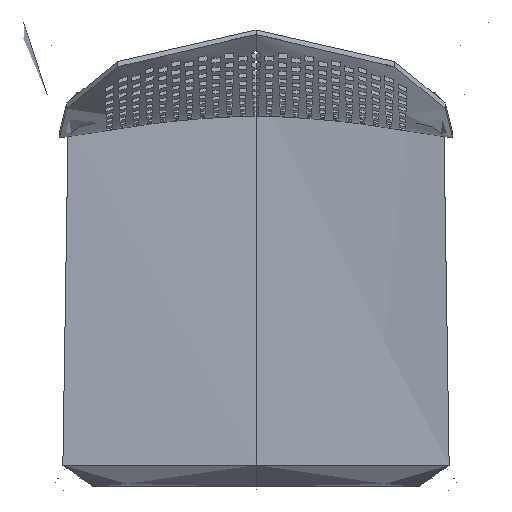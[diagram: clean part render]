
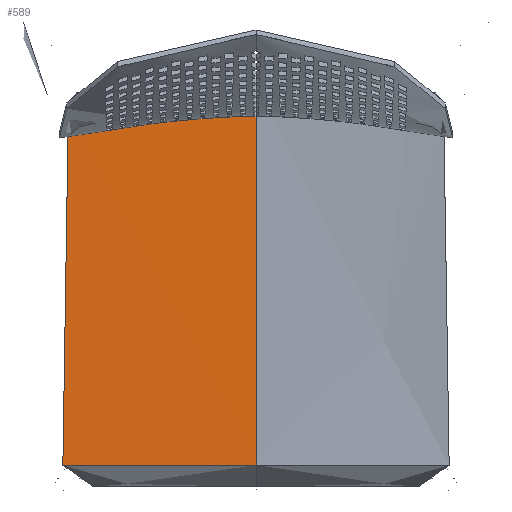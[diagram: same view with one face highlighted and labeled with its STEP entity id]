
A CAD part, top view. The second image highlights one B-rep face of the part: STEP entity #589.
In plain terms, the highlighted free-form (B-spline) face has degree [3, 3] with [4, 6] control points.
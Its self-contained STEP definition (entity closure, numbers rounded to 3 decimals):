
#589=ADVANCED_FACE('',(#1663),#20042,.T.);
#1663=FACE_OUTER_BOUND('',#2737,.T.);
#2737=EDGE_LOOP('',(#4426,#4427,#4428,#4429,#4430));
#4426=ORIENTED_EDGE('',*,*,#10664,.T.);
#4427=ORIENTED_EDGE('',*,*,#10654,.T.);
#4428=ORIENTED_EDGE('',*,*,#10673,.F.);
#4429=ORIENTED_EDGE('',*,*,#10649,.T.);
#4430=ORIENTED_EDGE('',*,*,#10674,.F.);
#10649=EDGE_CURVE('',#16978,#16980,#13895,.T.);
#10654=EDGE_CURVE('',#16983,#16984,#13900,.T.);
#10664=EDGE_CURVE('',#16989,#16983,#13910,.T.);
#10673=EDGE_CURVE('',#16978,#16984,#13919,.T.);
#10674=EDGE_CURVE('',#16989,#16980,#13727,.T.);
#13727=(
BOUNDED_CURVE()
B_SPLINE_CURVE(3,(#33368,#33369,#33370,#33371,#33372,#33373,#33374,#33375,
#33376,#33377,#33378,#33379,#33380,#33381,#33382,#33383,#33384,#33385,#33386,
#33387,#33388,#33389,#33390,#33391,#33392,#33393,#33394,#33395,#33396,#33397,
#33398),.UNSPECIFIED.,.F.,.F.)
B_SPLINE_CURVE_WITH_KNOTS((4,1,1,3,3,1,1,1,3,1,3,3,3,3,4),(2.851,
11.912,18.296,25.391,29.766,33.648,
35.997,37.781,43.025,45.325,48.241,
51.964,58.29,64.261,66.204),
 .UNSPECIFIED.)
CURVE()
GEOMETRIC_REPRESENTATION_ITEM()
RATIONAL_B_SPLINE_CURVE((1.,1.,1.,1.,1.,
1.,1.,1.,1.,1.,1.,1.,1.,1.,
1.,1.,1.,1.,1.,1.,1.,1.,1.,1.,1.,1.,1.,1.,
1.,1.,1.))
REPRESENTATION_ITEM('')
);
#13895=B_SPLINE_CURVE_WITH_KNOTS('',3,(#33107,#33108,#33109,#33110),
 .UNSPECIFIED.,.F.,.F.,(4,4),(-218.041,-38.983),
 .UNSPECIFIED.);
#13900=B_SPLINE_CURVE_WITH_KNOTS('',3,(#33139,#33140,#33141,#33142),
 .UNSPECIFIED.,.F.,.F.,(4,4),(0.,218.041),.UNSPECIFIED.);
#13910=B_SPLINE_CURVE_WITH_KNOTS('',1,(#33229,#33230),.UNSPECIFIED.,.F.,
 .F.,(2,2),(-388.74,0.),.UNSPECIFIED.);
#13919=B_SPLINE_CURVE_WITH_KNOTS('',3,(#33362,#33363,#33364,#33365,#33366,
#33367),.UNSPECIFIED.,.F.,.F.,(4,1,1,4),(-478.317,-332.608,
-186.899,-41.19),.UNSPECIFIED.);
#16978=VERTEX_POINT('',#30902);
#16980=VERTEX_POINT('',#30904);
#16983=VERTEX_POINT('',#30907);
#16984=VERTEX_POINT('',#30908);
#16989=VERTEX_POINT('',#30913);
#20042=B_SPLINE_SURFACE_WITH_KNOTS('',3,3,((#23575,#23576,#23577,#23578,
#23579,#23580),(#23581,#23582,#23583,#23584,#23585,#23586),(#23587,#23588,
#23589,#23590,#23591,#23592),(#23593,#23594,#23595,#23596,#23597,#23598)),
 .UNSPECIFIED.,.F.,.F.,.F.,(4,4),(4,1,1,4),(-0.436,218.041),
(41.19,186.899,332.608,478.754),
 .UNSPECIFIED.);
#23575=CARTESIAN_POINT('',(-218.048,-201.152,754.745));
#23576=CARTESIAN_POINT('',(-217.329,-154.754,755.012));
#23577=CARTESIAN_POINT('',(-215.891,-62.159,755.607));
#23578=CARTESIAN_POINT('',(-213.732,76.936,756.403));
#23579=CARTESIAN_POINT('',(-212.292,169.772,756.893));
#23580=CARTESIAN_POINT('',(-211.571,216.274,757.148));
#23581=CARTESIAN_POINT('',(-145.365,-201.108,752.738));
#23582=CARTESIAN_POINT('',(-144.886,-164.763,752.947));
#23583=CARTESIAN_POINT('',(-143.927,-58.348,743.126));
#23584=CARTESIAN_POINT('',(-142.488,90.94,744.473));
#23585=CARTESIAN_POINT('',(-141.528,180.444,752.207));
#23586=CARTESIAN_POINT('',(-141.047,222.992,754.528));
#23587=CARTESIAN_POINT('',(-72.683,-201.085,751.734));
#23588=CARTESIAN_POINT('',(-72.443,-169.767,751.914));
#23589=CARTESIAN_POINT('',(-71.964,-56.443,736.886));
#23590=CARTESIAN_POINT('',(-71.244,97.942,738.507));
#23591=CARTESIAN_POINT('',(-70.764,185.78,749.865));
#23592=CARTESIAN_POINT('',(-70.524,226.352,753.219));
#23593=CARTESIAN_POINT('',(0.,-201.085,751.734));
#23594=CARTESIAN_POINT('',(0.,-169.767,751.914));
#23595=CARTESIAN_POINT('',(0.,-56.443,736.886));
#23596=CARTESIAN_POINT('',(0.,97.942,738.507));
#23597=CARTESIAN_POINT('',(0.,185.78,749.865));
#23598=CARTESIAN_POINT('',(0.,226.352,753.219));
#30902=CARTESIAN_POINT('',(0.,225.988,753.188));
#30904=CARTESIAN_POINT('',(-173.403,219.183,755.846));
#30907=CARTESIAN_POINT('',(-217.613,-201.152,754.733));
#30908=CARTESIAN_POINT('',(0.,-201.085,751.734));
#30913=CARTESIAN_POINT('',(-211.594,187.535,756.967));
#33107=CARTESIAN_POINT('',(0.,225.988,753.188));
#33108=CARTESIAN_POINT('',(-57.801,225.988,753.188));
#33109=CARTESIAN_POINT('',(-115.602,223.719,754.074));
#33110=CARTESIAN_POINT('',(-173.403,219.183,755.846));
#33139=CARTESIAN_POINT('',(-217.613,-201.152,754.733));
#33140=CARTESIAN_POINT('',(-145.075,-201.108,752.734));
#33141=CARTESIAN_POINT('',(-72.538,-201.085,751.734));
#33142=CARTESIAN_POINT('',(0.,-201.085,751.734));
#33229=CARTESIAN_POINT('',(-211.594,187.535,756.967));
#33230=CARTESIAN_POINT('',(-217.613,-201.152,754.733));
#33362=CARTESIAN_POINT('',(0.,225.988,753.188));
#33363=CARTESIAN_POINT('',(0.,185.517,749.831));
#33364=CARTESIAN_POINT('',(0.,97.788,738.506));
#33365=CARTESIAN_POINT('',(0.,-56.443,736.886));
#33366=CARTESIAN_POINT('',(0.,-169.767,751.914));
#33367=CARTESIAN_POINT('',(0.,-201.085,751.734));
#33368=CARTESIAN_POINT('',(-211.594,187.535,756.967));
#33369=CARTESIAN_POINT('',(-208.679,186.791,756.792));
#33370=CARTESIAN_POINT('',(-203.606,185.915,756.483));
#33371=CARTESIAN_POINT('',(-196.091,185.696,756.038));
#33372=CARTESIAN_POINT('',(-191.609,186.17,755.789));
#33373=CARTESIAN_POINT('',(-189.278,186.597,755.667));
#33374=CARTESIAN_POINT('',(-187.842,186.861,755.592));
#33375=CARTESIAN_POINT('',(-186.416,187.203,755.521));
#33376=CARTESIAN_POINT('',(-185.031,187.678,755.457));
#33377=CARTESIAN_POINT('',(-183.804,188.098,755.4));
#33378=CARTESIAN_POINT('',(-181.884,188.949,755.319));
#33379=CARTESIAN_POINT('',(-179.674,190.49,755.248));
#33380=CARTESIAN_POINT('',(-177.367,192.636,755.194));
#33381=CARTESIAN_POINT('',(-176.067,194.644,755.195));
#33382=CARTESIAN_POINT('',(-175.373,196.253,755.214));
#33383=CARTESIAN_POINT('',(-175.068,196.958,755.222));
#33384=CARTESIAN_POINT('',(-174.486,198.605,755.249));
#33385=CARTESIAN_POINT('',(-174.139,200.314,755.289));
#33386=CARTESIAN_POINT('',(-173.994,201.275,755.314));
#33387=CARTESIAN_POINT('',(-173.808,202.502,755.346));
#33388=CARTESIAN_POINT('',(-173.711,203.74,755.382));
#33389=CARTESIAN_POINT('',(-173.639,204.977,755.419));
#33390=CARTESIAN_POINT('',(-173.514,207.079,755.482));
#33391=CARTESIAN_POINT('',(-173.478,209.184,755.547));
#33392=CARTESIAN_POINT('',(-173.454,211.288,755.611));
#33393=CARTESIAN_POINT('',(-173.431,213.273,755.672));
#33394=CARTESIAN_POINT('',(-173.424,215.259,755.732));
#33395=CARTESIAN_POINT('',(-173.414,217.244,755.79));
#33396=CARTESIAN_POINT('',(-173.411,217.89,755.809));
#33397=CARTESIAN_POINT('',(-173.407,218.536,755.828));
#33398=CARTESIAN_POINT('',(-173.403,219.183,755.846));
